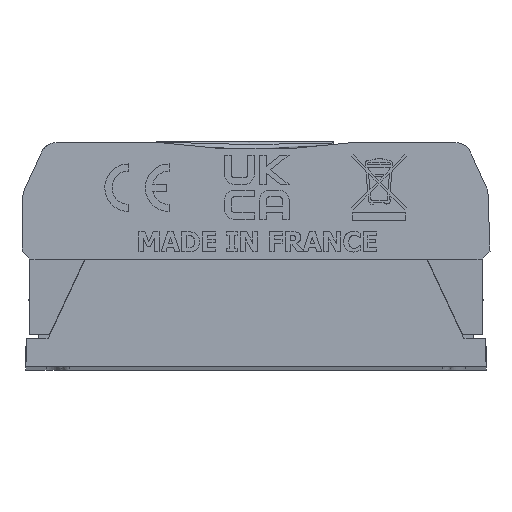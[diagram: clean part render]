
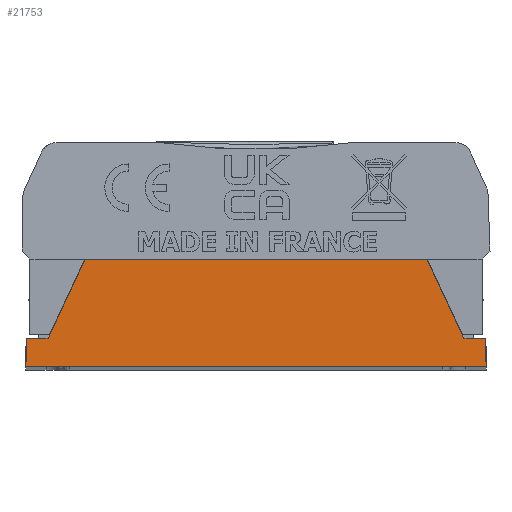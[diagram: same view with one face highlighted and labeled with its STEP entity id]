
A CAD part, left-side view. The second image highlights one B-rep face of the part: STEP entity #21753.
In plain terms, the highlighted planar face has unit normal (-1, 0, 0.009).
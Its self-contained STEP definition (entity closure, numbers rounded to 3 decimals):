
#857=FACE_OUTER_BOUND('',#1992,.T.);
#1992=EDGE_LOOP('',(#13966,#13967,#13968,#13969,#13970,#13971,#13972,#13973));
#3309=LINE('',#30192,#5929);
#3359=LINE('',#30290,#5979);
#3362=LINE('',#30296,#5982);
#3381=LINE('',#30336,#6001);
#3386=LINE('',#30346,#6006);
#3387=LINE('',#30347,#6007);
#3388=LINE('',#30349,#6008);
#3389=LINE('',#30350,#6009);
#5929=VECTOR('',#24652,10.);
#5979=VECTOR('',#24726,10.);
#5982=VECTOR('',#24731,10.);
#6001=VECTOR('',#24760,10.);
#6006=VECTOR('',#24769,10.);
#6007=VECTOR('',#24770,10.);
#6008=VECTOR('',#24771,10.);
#6009=VECTOR('',#24772,10.);
#8509=VERTEX_POINT('',#30189);
#8510=VERTEX_POINT('',#30191);
#8546=VERTEX_POINT('',#30289);
#8548=VERTEX_POINT('',#30295);
#8563=VERTEX_POINT('',#30333);
#8564=VERTEX_POINT('',#30335);
#8567=VERTEX_POINT('',#30345);
#8568=VERTEX_POINT('',#30348);
#10599=EDGE_CURVE('',#8510,#8509,#3309,.T.);
#10649=EDGE_CURVE('',#8510,#8546,#3359,.T.);
#10652=EDGE_CURVE('',#8546,#8548,#3362,.T.);
#10671=EDGE_CURVE('',#8564,#8563,#3381,.T.);
#10676=EDGE_CURVE('',#8567,#8548,#3386,.T.);
#10677=EDGE_CURVE('',#8509,#8564,#3387,.T.);
#10678=EDGE_CURVE('',#8563,#8568,#3388,.T.);
#10679=EDGE_CURVE('',#8568,#8567,#3389,.T.);
#13966=ORIENTED_EDGE('',*,*,#10676,.T.);
#13967=ORIENTED_EDGE('',*,*,#10652,.F.);
#13968=ORIENTED_EDGE('',*,*,#10649,.F.);
#13969=ORIENTED_EDGE('',*,*,#10599,.T.);
#13970=ORIENTED_EDGE('',*,*,#10677,.T.);
#13971=ORIENTED_EDGE('',*,*,#10671,.T.);
#13972=ORIENTED_EDGE('',*,*,#10678,.T.);
#13973=ORIENTED_EDGE('',*,*,#10679,.T.);
#19688=PLANE('',#22928);
#21753=ADVANCED_FACE('',(#857),#19688,.T.);
#22928=AXIS2_PLACEMENT_3D('',#30344,#24767,#24768);
#24652=DIRECTION('',(0.009,0.009,1.));
#24726=DIRECTION('',(0.,1.,0.));
#24731=DIRECTION('',(0.009,-0.009,1.));
#24760=DIRECTION('',(0.008,0.423,0.906));
#24767=DIRECTION('center_axis',(-1.,0.,
0.009));
#24768=DIRECTION('ref_axis',(0.,-1.,0.));
#24769=DIRECTION('',(0.,1.,0.));
#24770=DIRECTION('',(0.,1.,0.));
#24771=DIRECTION('',(0.,1.,0.));
#24772=DIRECTION('',(-0.008,0.423,-0.906));
#30189=CARTESIAN_POINT('',(-22.219,-28.969,4.));
#30191=CARTESIAN_POINT('',(-22.25,-29.,0.5));
#30192=CARTESIAN_POINT('',(-22.248,-28.998,0.694));
#30289=CARTESIAN_POINT('',(-22.25,29.,0.5));
#30290=CARTESIAN_POINT('',(-22.25,-29.,0.5));
#30295=CARTESIAN_POINT('',(-22.219,28.969,4.));
#30296=CARTESIAN_POINT('',(-22.248,28.998,0.753));
#30333=CARTESIAN_POINT('',(-22.132,-21.55,14.));
#30335=CARTESIAN_POINT('',(-22.219,-26.213,4.));
#30336=CARTESIAN_POINT('',(-22.193,-24.799,7.033));
#30344=CARTESIAN_POINT('Origin',(-22.25,-29.,0.5));
#30345=CARTESIAN_POINT('',(-22.219,26.213,4.));
#30346=CARTESIAN_POINT('',(-22.219,28.978,4.));
#30347=CARTESIAN_POINT('',(-22.219,-29.188,4.));
#30348=CARTESIAN_POINT('',(-22.132,21.55,14.));
#30349=CARTESIAN_POINT('',(-22.132,-27.41,14.));
#30350=CARTESIAN_POINT('',(-22.096,19.63,18.117));
